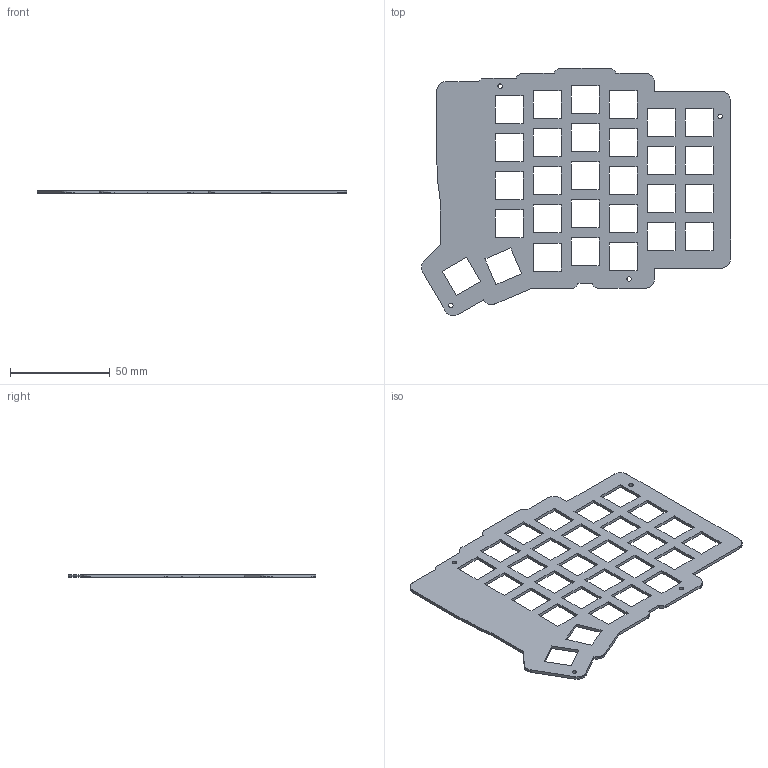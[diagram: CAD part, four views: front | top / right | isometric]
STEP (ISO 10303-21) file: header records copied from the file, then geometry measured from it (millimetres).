
FILE_DESCRIPTION(('Open CASCADE Model'),'2;1');
FILE_NAME('Open CASCADE Shape Model','1979-01-01T00:00:00',('Author'),( 'Open CASCADE'),'Open CASCADE STEP processor 8.0','Open CASCADE 8.0' ,'Unknown');
FILE_SCHEMA(('AUTOMOTIVE_DESIGN { 1 0 10303 214 1 1 1 1 }'));
Length unit declared in the file: millimetre
Products named in the file (1): Open CASCADE STEP translator 8.0 2
Bounding box: 154.57 x 123.84 x 1.5 mm (x, y, z)
Volume: 14509 mm3; surface area: 22603.9 mm2
Topology: 1 solids, 1 shells, 283 faces, 843 edges, 562 vertices
Faces by surface type: plane 279, cylinder 4
Full cylindrical faces by diameter (mm): 2.2 x4
Entity records: 20406 total; most frequent: CARTESIAN_POINT 3375, DIRECTION 3105, LINE 2513, VECTOR 2513, ORIENTED_EDGE 1686, PCURVE 1686, DEFINITIONAL_REPRESENTATION 1686, EDGE_CURVE 843
